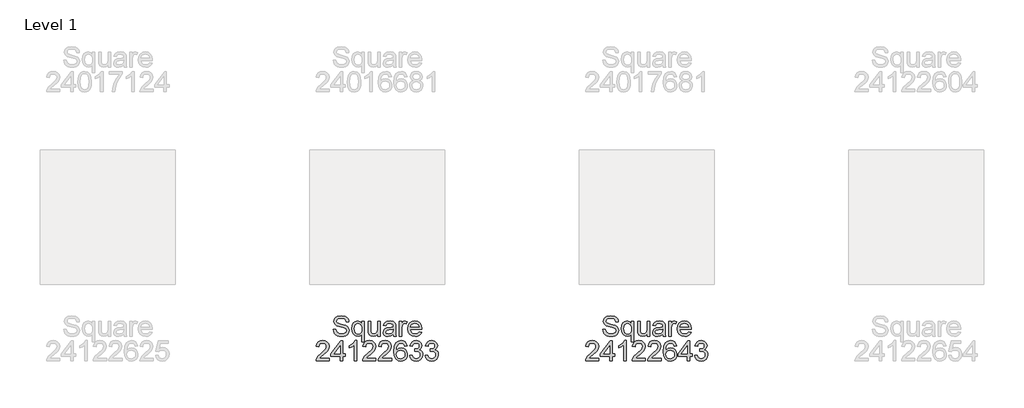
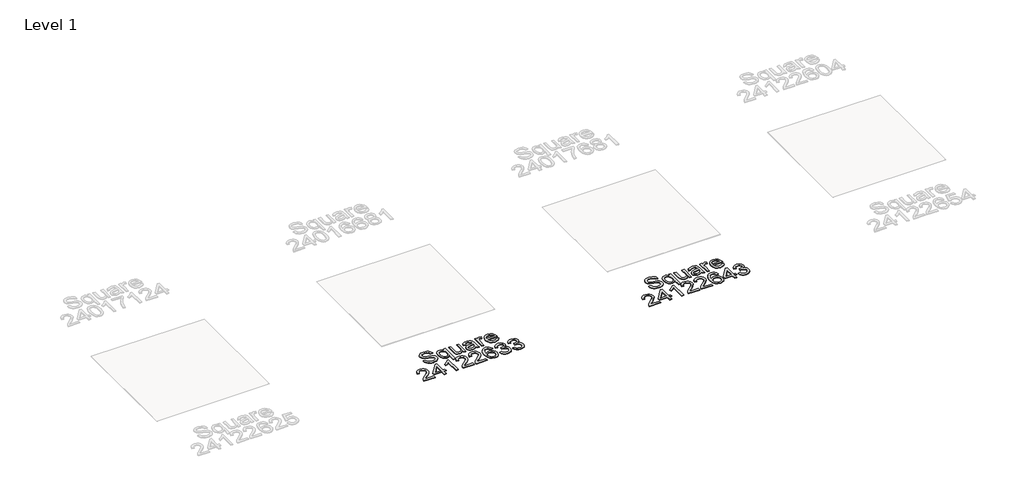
# One storey, part 2 of 6: 2 proxies.
"""IFC4 building model written with IfcOpenShell, lengths in millimetres."""

import ifcopenshell
import ifcopenshell.guid

model = None  # the IFC model being written
_history = None  # IfcOwnerHistory: only IFC2X3 demands one
_inside = {}  # id of a spatial element -> (the spatial element, [elements in it])
_under = {}  # id of a project, library or spatial element -> (it, [spatial elements below it])
_declared = {}  # id of a project -> (the project, [libraries it declares])
_typed = {}  # id of a type object -> (the type object, [elements of that type])
_made_of = {}  # id of a material, layer set ... -> (it, [elements and type objects made of it])


def new_model(schema):
    """Start an empty IFC model of exactly this schema.

    Asked for "IFC4X3", IfcOpenShell would pick the latest addendum, in which some entities
    have other attributes; the version numbers below select the first issue.
    IFC2X3 requires an IfcOwnerHistory on every rooted entity: one is made here for all.
    """
    global model, _history
    if schema == "IFC4X3":
        model = ifcopenshell.file(schema_version=(4, 3, 0, 0))
    else:
        model = ifcopenshell.file(schema=schema)
    _inside.clear()
    _under.clear()
    _declared.clear()
    _typed.clear()
    _made_of.clear()
    _history = None
    if model.schema == "IFC2X3":
        org = make("IfcOrganization", Name="unknown")
        user = make(
            "IfcPersonAndOrganization",
            ThePerson=make("IfcPerson", FamilyName="unknown"),
            TheOrganization=org,
        )
        app = make(
            "IfcApplication",
            ApplicationDeveloper=org,
            Version="unknown",
            ApplicationFullName="unknown",
            ApplicationIdentifier="unknown",
        )
        _history = make(
            "IfcOwnerHistory",
            OwningUser=user,
            OwningApplication=app,
            ChangeAction="ADDED",
            CreationDate=0,
        )
    return model


def make(cls, **values):
    """One entity of the class cls with the attributes given. An attribute that is None is left unset."""
    return model.create_entity(
        cls, **{name: value for name, value in values.items() if value is not None}
    )


def rooted(cls, **values):
    """An entity with a GlobalId (a new one), such as an element, a storey or a relation."""
    return make(cls, GlobalId=ifcopenshell.guid.new(), OwnerHistory=_history, **values)


def si_unit(unit_type, name, prefix=None):
    """IfcSIUnit, for example si_unit("LENGTHUNIT", "METRE", prefix="MILLI")."""
    return make("IfcSIUnit", UnitType=unit_type, Prefix=prefix, Name=name)


def assignment(units):
    """IfcUnitAssignment: the units of a project."""
    return None if units is None else make("IfcUnitAssignment", Units=units)


def point(xyz):
    """IfcCartesianPoint."""
    return None if xyz is None else make("IfcCartesianPoint", Coordinates=xyz)


def direction(xyz):
    """IfcDirection."""
    return None if xyz is None else make("IfcDirection", DirectionRatios=xyz)


def frame(location, z_axis=None, x_axis=None):
    """IfcAxis2Placement3D, a coordinate frame: its origin and axes. An axis left out is left unset."""
    return make(
        "IfcAxis2Placement3D",
        Location=point(location),
        Axis=direction(z_axis),
        RefDirection=direction(x_axis),
    )


def origin():
    """The frame at (0, 0, 0) with its axes left unset."""
    return frame((0.0, 0.0, 0.0))


def origin_with_axes():
    """The frame at (0, 0, 0) with the z axis (0, 0, 1) and the x axis (1, 0, 0) written out."""
    return frame((0.0, 0.0, 0.0), z_axis=(0.0, 0.0, 1.0), x_axis=(1.0, 0.0, 0.0))


def place(relative_to, where):
    """IfcLocalPlacement: puts the frame where relative to a parent placement (None: the world)."""
    return make(
        "IfcLocalPlacement", PlacementRelTo=relative_to, RelativePlacement=where
    )


def context(
    kind, dimensions, precision=None, world=None, true_north=None, identifier=None
):
    """IfcGeometricRepresentationContext, for example the 3D "Model" context."""
    return make(
        "IfcGeometricRepresentationContext",
        ContextIdentifier=identifier,
        ContextType=kind,
        CoordinateSpaceDimension=dimensions,
        Precision=precision,
        WorldCoordinateSystem=world,
        TrueNorth=true_north,
    )


def project(units=None, contexts=None):
    """IfcProject with its units and contexts."""
    return rooted(
        "IfcProject",
        Name="project",
        RepresentationContexts=contexts,
        UnitsInContext=assignment(units),
    )


def spatial(cls, under=None, at=None, **own):
    """A site, building, storey or space (cls), placed at a placement, below another one or the project."""
    s = rooted(cls, ObjectPlacement=at, **own)
    if under is not None:
        _under.setdefault(under.id(), (under, []))[1].append(s)
    return s


def polyline(points):
    """IfcPolyline through the points."""
    return make("IfcPolyline", Points=[point(p) for p in points])


def outline(outer, holes=None, kind="AREA"):
    """IfcArbitraryClosedProfileDef: a profile drawn as a closed curve; with holes, ...WithVoids."""
    if holes is None:
        return make("IfcArbitraryClosedProfileDef", ProfileType=kind, OuterCurve=outer)
    return make(
        "IfcArbitraryProfileDefWithVoids",
        ProfileType=kind,
        OuterCurve=outer,
        InnerCurves=holes,
    )


def extrude(swept, where, along, depth):
    """IfcExtrudedAreaSolid: the profile swept, set in the frame where, extruded along a direction by depth."""
    return make(
        "IfcExtrudedAreaSolid",
        SweptArea=swept,
        Position=where,
        ExtrudedDirection=direction(along),
        Depth=depth,
    )


def shape(context_of_items, identifier, shape_type, items):
    """IfcShapeRepresentation: the items that make up one representation, for example the "Body"."""
    return make(
        "IfcShapeRepresentation",
        ContextOfItems=context_of_items,
        RepresentationIdentifier=identifier,
        RepresentationType=shape_type,
        Items=items,
    )


def made_of(thing, what):
    """Note that an element or type object is made of a material, layer set ...; save() writes the relation."""
    if what is not None:
        _made_of.setdefault(what.id(), (what, []))[1].append(thing)
    return thing


def element(
    cls,
    number,
    at=None,
    inside=None,
    cuts=None,
    type_object=None,
    material=None,
    context=None,
    identifier="Body",
    shape_type=None,
    held_by="IfcProductDefinitionShape",
    body=None,
    shapes=None,
    **own,
):
    """One element of the class cls, such as IfcWall. Its Tag is "e" and its number.

    at: its placement. inside: the storey or other place that contains it. cuts: it is an
    opening in that element (IfcRelVoidsElement). A single representation is given by context,
    identifier, shape_type and body (its items); several are given by shapes. held_by: the class
    of the entity that holds the representations. save() writes the other relations.
    """
    e = rooted(cls, Tag="e%d" % number, ObjectPlacement=at, **own)
    if body is not None:
        shapes = [shape(context, identifier, shape_type, body)]
    if shapes is not None:
        e.Representation = make(held_by, Representations=shapes)
    if inside is not None:
        _inside.setdefault(inside.id(), (inside, []))[1].append(e)
    if cuts is not None:
        rooted(
            "IfcRelVoidsElement", RelatingBuildingElement=cuts, RelatedOpeningElement=e
        )
    if type_object is not None:
        _typed.setdefault(type_object.id(), (type_object, []))[1].append(e)
    return made_of(e, material)


def aggregate(whole, parts):
    """IfcRelAggregates: a whole, such as a stair, and the parts it consists of."""
    return rooted("IfcRelAggregates", RelatingObject=whole, RelatedObjects=parts)


def save(model, path):
    """Write the relations noted so far, then the file.

    IfcRelAggregates (storeys below a building ...), IfcRelContainedInSpatialStructure (elements
    in a storey), IfcRelDefinesByType, IfcRelAssociatesMaterial and IfcRelDeclares: one each for
    every whole, place, type object, material and project.
    """
    for whole, parts in _under.values():
        aggregate(whole, parts)
    for where, things in _inside.values():
        rooted(
            "IfcRelContainedInSpatialStructure",
            RelatedElements=things,
            RelatingStructure=where,
        )
    for kind, things in _typed.values():
        rooted("IfcRelDefinesByType", RelatedObjects=things, RelatingType=kind)
    for what, things in _made_of.values():
        rooted("IfcRelAssociatesMaterial", RelatedObjects=things, RelatingMaterial=what)
    for by, libraries in _declared.values():
        rooted("IfcRelDeclares", RelatingContext=by, RelatedDefinitions=libraries)
    model.write(path)


model = new_model("IFC4")

# Units and contexts
model_context = context("Model", 3, world=origin())
ifc_project = project(units=[si_unit("LENGTHUNIT", "METRE", prefix="MILLI")], contexts=[model_context])

# Site, building, storey
site = spatial("IfcSite", under=ifc_project)
building = spatial("IfcBuilding", under=site)
storey = spatial("IfcBuildingStorey", under=building, Name="Level 1", Elevation=0.0)

# Proxies
placement = place(None, origin())
element("IfcBuildingElementProxy", 1, Name="150mm Arial", ObjectType="150mm Arial", at=placement, inside=storey, context=model_context, shape_type="SweptSolid", body=[
    extrude(outline(polyline([(-2760.0314438, -3311.1477573), (-2741.1958857, -3311.1477573), (-2735.1258328, -3330.0017096), (-2720.3001884, -3341.9210862), (-2697.7122339, -3346.4644288), (-2678.0305471, -3343.0247322), (-2665.3202242, -3333.5701649), (-2661.1447635, -3320.9334184), (-2664.2717605, -3309.1795886), (-2677.0740539, -3300.6263322), (-2704.4996567, -3293.4342392), (-2734.0221868, -3284.1452189), (-2750.0434477, -3270.1289148), (-2755.3225543, -3251.4037213), (-2753.6900779, -3240.37186), (-2748.7926489, -3230.0849597), (-2740.7590258, -3221.3661564), (-2729.7179674, -3215.0385861), (-2701.795724, -3209.9066322), (-2671.9972824, -3215.2777094), (-2660.5745464, -3221.9087823), (-2652.1316547, -3231.059847), (-2646.7881687, -3242.1606862), (-2644.6636501, -3254.6410828), (-2663.4992083, -3254.6410828), (-2666.9572991, -3243.4022879), (-2674.1677862, -3235.2904899), (-2685.4341723, -3230.3792653), (-2701.05996, -3228.7421904), (-2717.0536297, -3230.3608712), (-2728.0257103, -3235.2169135), (-2734.3716747, -3242.3630213), (-2736.4869961, -3250.8518983), (-2734.987877, -3258.0899766), (-2730.4905196, -3263.9117091), (-2699.7355848, -3274.4331342), (-2666.4054761, -3283.8877015), (-2655.6679203, -3290.7211095), (-2648.1769232, -3299.1548043), (-2643.7761348, -3309.0968152), (-2642.3092054, -3320.4551718), (-2643.996864, -3332.0664473), (-2649.05984, -3342.987944), (-2657.2911996, -3352.387329), (-2668.4840093, -3359.4322692), (-2681.9438918, -3363.8330575), (-2696.9764699, -3365.299987), (-2715.4303504, -3363.7180944), (-2730.6192783, -3358.9724167), (-2742.7179974, -3351.0445597), (-2751.9012517, -3339.9161293), (-2757.7965607, -3326.3596778), (-2760.0314438, -3311.1477573)])), origin_with_axes(), (0.0, 0.0, 1.0), 5.0),
    extrude(outline(polyline([(-2548.1314146, -3405.3255481), (-2548.1314146, -3347.8623804), (-2560.0875795, -3360.3335801), (-2576.42154, -3365.299987), (-2594.3281962, -3361.3774452), (-2609.5677078, -3349.6098199), (-2619.9971624, -3331.0087865), (-2623.4736472, -3306.5860206), (-2617.9554173, -3276.7507908), (-2611.1955856, -3265.1441138), (-2601.9525505, -3256.7380102), (-2590.9620759, -3251.6336475), (-2578.9599258, -3249.9321933), (-2561.4487428, -3255.2112999), (-2548.1314146, -3271.0486198), (-2548.1314146, -3252.2866381), (-2529.2958565, -3252.2866381), (-2529.2958565, -3405.3255481), (-2548.1314146, -3405.3255481)]), holes=[polyline([(-2604.6380891, -3307.6160902), (-2602.5181691, -3324.6122383), (-2596.1584091, -3336.7523442), (-2586.837199, -3344.0364077), (-2575.8329289, -3346.4644288), (-2565.2885112, -3344.1559693), (-2556.316789, -3337.2305908), (-2550.1777582, -3325.5871256), (-2548.1314146, -3309.1244063), (-2550.2881228, -3291.5258514), (-2556.7582474, -3278.9029004), (-2566.1346398, -3271.3015387), (-2577.0101512, -3268.7677515), (-2587.6833276, -3271.1267948), (-2596.5998675, -3278.2039246), (-2602.6285337, -3290.2750526), (-2604.6380891, -3307.6160902)])]), origin_with_axes(), (0.0, 0.0, 1.0), 5.0),
    extrude(outline(polyline([(-2430.4091762, -3362.9455422), (-2430.4091762, -3343.9260431), (-2445.1612442, -3359.956501), (-2464.4014725, -3365.299987), (-2482.1149906, -3361.5475906), (-2494.3286728, -3352.1298116), (-2499.9388732, -3338.2606604), (-2501.0425192, -3320.7494774), (-2501.0425192, -3252.2866381), (-2482.2069611, -3252.2866381), (-2482.2069611, -3311.8835213), (-2481.0665269, -3331.0869614), (-2473.6169165, -3342.3625446), (-2459.5822184, -3346.4644288), (-2443.8552631, -3342.2705741), (-2433.4625967, -3330.8478382), (-2430.4091762, -3309.8601703), (-2430.4091762, -3252.2866381), (-2411.573618, -3252.2866381), (-2411.573618, -3362.9455422), (-2430.4091762, -3362.9455422)])), origin_with_axes(), (0.0, 0.0, 1.0), 5.0),
    extrude(outline(polyline([(-2315.0413825, -3348.8188736), (-2333.3067235, -3361.5843788), (-2353.485051, -3365.299987), (-2369.2258018, -3363.0651039), (-2380.8370773, -3356.3604545), (-2387.9969806, -3346.1793203), (-2390.3836151, -3333.5149826), (-2386.7783715, -3318.6157618), (-2377.3054102, -3307.8000312), (-2364.1168406, -3301.6196136), (-2347.8196682, -3298.7869223), (-2315.1517471, -3292.3121992), (-2315.0413825, -3288.1183444), (-2316.3381665, -3279.7122408), (-2320.2285186, -3274.212405), (-2328.9289278, -3270.1289148), (-2341.0506395, -3268.7677515), (-2360.1069269, -3272.3913891), (-2369.1936122, -3285.2488648), (-2388.0291703, -3282.8944201), (-2379.8805841, -3264.5003203), (-2363.4730471, -3253.7213779), (-2338.6226184, -3249.9321933), (-2315.7955406, -3253.2799195), (-2302.9012766, -3261.6860231), (-2297.1255293, -3274.4699224), (-2296.2058243, -3290.9510358), (-2296.2058243, -3314.3851189), (-2295.2493311, -3347.1082223), (-2291.4969348, -3362.9455422), (-2310.3324929, -3362.9455422), (-2315.0413825, -3348.8188736)]), holes=[polyline([(-2315.0413825, -3311.1477573), (-2345.4284353, -3316.9235046), (-2361.6336372, -3319.9769252), (-2368.972883, -3324.9433321), (-2371.5480569, -3332.1906074), (-2365.9378565, -3342.3809387), (-2349.4751372, -3346.4644288), (-2330.4188499, -3341.9578744), (-2318.1315912, -3331.0501732), (-2315.1517471, -3316.4820462), (-2315.0413825, -3311.1477573)])]), origin_with_axes(), (0.0, 0.0, 1.0), 5.0),
    extrude(outline(polyline([(-2270.3069319, -3362.9455422), (-2270.3069319, -3252.2866381), (-2253.8258185, -3252.2866381), (-2253.8258185, -3268.6573869), (-2242.127171, -3253.5742251), (-2230.3549472, -3249.9321933), (-2211.4458126, -3255.7447288), (-2217.7365947, -3272.6305124), (-2230.9803466, -3268.7677515), (-2241.6305303, -3272.4833596), (-2248.4179531, -3282.7840555), (-2251.4713737, -3304.7833988), (-2251.4713737, -3362.9455422), (-2270.3069319, -3362.9455422)])), origin_with_axes(), (0.0, 0.0, 1.0), 5.0),
    extrude(outline(polyline([(-2122.1976406, -3329.9833155), (-2103.7299644, -3332.3377602), (-2110.38403, -3346.2528967), (-2121.0020241, -3356.6547601), (-2135.3448234, -3363.1386803), (-2153.1733046, -3365.299987), (-2175.2738155, -3361.5705833), (-2192.2791607, -3350.3823721), (-2203.1224825, -3332.4619204), (-2206.7369231, -3308.5357951), (-2203.0856943, -3283.804928), (-2192.1320079, -3265.3096607), (-2175.3565889, -3253.7765602), (-2154.2401624, -3249.9321933), (-2133.7813249, -3253.7673631), (-2117.4335688, -3265.2728725), (-2106.7144071, -3283.7313516), (-2103.1413532, -3308.4254305), (-2103.2517178, -3313.5022021), (-2187.9013649, -3313.5022021), (-2184.6410108, -3327.6012795), (-2177.0672402, -3337.9663548), (-2166.1365464, -3344.3399103), (-2152.8054226, -3346.4644288), (-2134.3377464, -3342.5280915), (-2122.1976406, -3329.9833155)]), holes=[polyline([(-2187.9013649, -3294.6666439), (-2121.9769114, -3294.6666439), (-2124.5244942, -3284.715436), (-2129.5184923, -3277.5969193), (-2140.4997699, -3270.9750434), (-2154.3137388, -3268.7677515), (-2167.0102661, -3270.5289865), (-2177.5086986, -3275.8126917), (-2184.8065577, -3284.0486498), (-2187.9013649, -3294.6666439)])]), origin_with_axes(), (0.0, 0.0, 1.0), 5.0),
    extrude(outline(polyline([(-2789.4620034, -3527.0722108), (-2789.4620034, -3545.907769), (-2888.3486838, -3545.907769), (-2886.3253328, -3532.9215346), (-2874.8842027, -3512.9271481), (-2851.3029668, -3491.0933517), (-2818.7821985, -3459.7130175), (-2812.6845544, -3448.8972869), (-2810.6520064, -3438.3758618), (-2812.5695913, -3428.9442872), (-2818.322346, -3421.1038021), (-2827.1653094, -3415.820097), (-2838.3535206, -3414.0588619), (-2850.1027518, -3415.7787103), (-2859.2308238, -3420.9382552), (-2865.1215343, -3429.1328267), (-2867.1586808, -3439.9577544), (-2885.994239, -3437.6033096), (-2881.4279037, -3419.3839538), (-2871.5548707, -3406.0758226), (-2856.8901746, -3397.9364335), (-2837.9488504, -3395.2233038), (-2818.8695704, -3398.2399361), (-2804.2324656, -3407.2898332), (-2794.9204526, -3420.8094965), (-2791.8164482, -3437.2354276), (-2795.1641744, -3455.0960985), (-2806.2926047, -3473.5637746), (-2833.2767491, -3499.3706966), (-2854.9449986, -3517.4888849), (-2863.4430727, -3527.0722108), (-2789.4620034, -3527.0722108)])), origin_with_axes(), (0.0, 0.0, 1.0), 5.0),
    extrude(outline(polyline([(-2709.4108813, -3545.907769), (-2709.4108813, -3510.5910975), (-2777.6897796, -3510.5910975), (-2777.6897796, -3491.7555393), (-2704.7019918, -3397.5777485), (-2690.5753231, -3397.5777485), (-2690.5753231, -3491.7555393), (-2671.739765, -3491.7555393), (-2671.739765, -3510.5910975), (-2690.5753231, -3510.5910975), (-2690.5753231, -3545.907769), (-2709.4108813, -3545.907769)]), holes=[polyline([(-2709.4108813, -3491.7555393), (-2709.4108813, -3433.5566077), (-2754.5132139, -3491.7555393), (-2709.4108813, -3491.7555393)])]), origin_with_axes(), (0.0, 0.0, 1.0), 5.0),
    extrude(outline(polyline([(-2584.6253085, -3545.907769), (-2603.4608667, -3545.907769), (-2603.4608667, -3428.4798361), (-2621.3031435, -3441.1901591), (-2641.131983, -3450.6999086), (-2641.131983, -3432.8944201), (-2613.5224393, -3415.2728725), (-2596.7654144, -3395.2233038), (-2584.6253085, -3395.2233038), (-2584.6253085, -3545.907769)])), origin_with_axes(), (0.0, 0.0, 1.0), 5.0),
    extrude(outline(polyline([(-2443.3586224, -3527.0722108), (-2443.3586224, -3545.907769), (-2542.2453027, -3545.907769), (-2540.2219517, -3532.9215346), (-2528.7808217, -3512.9271481), (-2505.1995858, -3491.0933517), (-2472.6788174, -3459.7130175), (-2466.5811733, -3448.8972869), (-2464.5486253, -3438.3758618), (-2466.4662102, -3428.9442872), (-2472.2189649, -3421.1038021), (-2481.0619284, -3415.820097), (-2492.2501395, -3414.0588619), (-2503.9993708, -3415.7787103), (-2513.1274428, -3420.9382552), (-2519.0181532, -3429.1328267), (-2521.0552998, -3439.9577544), (-2539.8908579, -3437.6033096), (-2535.3245227, -3419.3839538), (-2525.4514896, -3406.0758226), (-2510.7867936, -3397.9364335), (-2491.8454694, -3395.2233038), (-2472.7661894, -3398.2399361), (-2458.1290845, -3407.2898332), (-2448.8170715, -3420.8094965), (-2445.7130672, -3437.2354276), (-2449.0607933, -3455.0960985), (-2460.1892237, -3473.5637746), (-2487.173368, -3499.3706966), (-2508.8416175, -3517.4888849), (-2517.3396916, -3527.0722108), (-2443.3586224, -3527.0722108)])), origin_with_axes(), (0.0, 0.0, 1.0), 5.0),
    extrude(outline(polyline([(-2327.9908287, -3527.0722108), (-2327.9908287, -3545.907769), (-2426.877509, -3545.907769), (-2424.854158, -3532.9215346), (-2413.413028, -3512.9271481), (-2389.8317921, -3491.0933517), (-2357.3110237, -3459.7130175), (-2351.2133796, -3448.8972869), (-2349.1808316, -3438.3758618), (-2351.0984165, -3428.9442872), (-2356.8511712, -3421.1038021), (-2365.6941347, -3415.820097), (-2376.8823459, -3414.0588619), (-2388.6315771, -3415.7787103), (-2397.7596491, -3420.9382552), (-2403.6503595, -3429.1328267), (-2405.6875061, -3439.9577544), (-2424.5230642, -3437.6033096), (-2419.956729, -3419.3839538), (-2410.0836959, -3406.0758226), (-2395.4189999, -3397.9364335), (-2376.4776757, -3395.2233038), (-2357.3983957, -3398.2399361), (-2342.7612908, -3407.2898332), (-2333.4492778, -3420.8094965), (-2330.3452735, -3437.2354276), (-2333.6929996, -3455.0960985), (-2344.82143, -3473.5637746), (-2371.8055743, -3499.3706966), (-2393.4738238, -3517.4888849), (-2401.9718979, -3527.0722108), (-2327.9908287, -3527.0722108)])), origin_with_axes(), (0.0, 0.0, 1.0), 5.0),
    extrude(outline(polyline([(-2212.623035, -3435.2488648), (-2231.4585932, -3437.6033096), (-2238.5955039, -3421.8947484), (-2247.1395632, -3416.0178336), (-2257.4678502, -3414.0588619), (-2274.4639984, -3418.6205987), (-2287.3214741, -3435.7455055), (-2291.2256218, -3449.7756051), (-2292.6741572, -3469.3147376), (-2276.0642851, -3454.2867581), (-2255.4812875, -3449.3755335), (-2238.0804691, -3452.7324567), (-2223.4755539, -3462.8032263), (-2213.5703312, -3478.1898907), (-2210.2685902, -3497.4944984), (-2211.8228917, -3510.9819721), (-2216.485796, -3523.4853614), (-2223.871027, -3534.0895599), (-2233.5923087, -3541.8794612), (-2245.2081827, -3546.6665256), (-2258.2771906, -3548.2622138), (-2279.646536, -3544.0315708), (-2296.6656768, -3531.339642), (-2307.7987057, -3508.9356285), (-2311.5097153, -3475.5687315), (-2307.389437, -3438.0539651), (-2295.0286019, -3412.4033929), (-2278.1520154, -3399.5183261), (-2256.2906278, -3395.2233038), (-2239.7635292, -3397.8812512), (-2226.5289744, -3405.8550934), (-2217.2583482, -3418.5194311), (-2212.623035, -3435.2488648)]), holes=[polyline([(-2292.6741572, -3497.2001928), (-2288.3147555, -3513.5157593), (-2276.7264727, -3525.3615596), (-2259.7487186, -3529.4266556), (-2247.3189057, -3527.3205312), (-2237.5470402, -3521.0021579), (-2231.2148713, -3511.0693441), (-2229.1041484, -3498.1198978), (-2231.1872802, -3485.6900849), (-2237.4366756, -3476.212525), (-2247.374088, -3470.21145), (-2260.5212708, -3468.2110916), (-2272.9326896, -3470.21145), (-2283.3115604, -3476.212525), (-2290.333508, -3485.4601587), (-2292.6741572, -3497.2001928)])]), origin_with_axes(), (0.0, 0.0, 1.0), 5.0),
    extrude(outline(polyline([(-2193.7874769, -3505.8822079), (-2174.9519187, -3503.5277632), (-2170.7350713, -3515.3643663), (-2164.5592523, -3523.3566027), (-2156.1209591, -3527.9091424), (-2145.1166889, -3529.4266556), (-2132.2040309, -3527.3389253), (-2122.2344288, -3521.0757343), (-2115.8608732, -3511.7315316), (-2113.7363547, -3500.4007662), (-2115.8424791, -3489.6448164), (-2122.1608524, -3480.9214145), (-2131.7257843, -3475.1410687), (-2143.5715845, -3473.2142868), (-2156.7785481, -3475.2744259), (-2154.6816208, -3456.4388678), (-2151.6649884, -3456.659597), (-2130.2910445, -3451.2517316), (-2123.1725279, -3444.3907324), (-2120.799689, -3434.6234655), (-2122.5195373, -3426.4886748), (-2127.6790823, -3419.8897915), (-2135.551757, -3415.5165943), (-2145.4109945, -3414.0588619), (-2155.2886261, -3415.5303899), (-2163.3636359, -3419.9449738), (-2169.2589448, -3427.3026138), (-2172.5974739, -3437.6033096), (-2191.4330321, -3435.2488648), (-2185.887211, -3418.3354901), (-2176.0187765, -3405.7079406), (-2162.5175073, -3397.844463), (-2146.0731821, -3395.2233038), (-2123.3564689, -3400.3920458), (-2107.4639667, -3414.5187144), (-2101.9641309, -3433.5198195), (-2107.1880552, -3450.8838496), (-2122.639099, -3463.3550493), (-2110.848481, -3468.1191211), (-2102.1112837, -3476.2309191), (-2096.7034183, -3487.2489849), (-2094.9007966, -3500.73186), (-2098.5060401, -3519.0891715), (-2109.3217708, -3534.4298507), (-2125.6465343, -3544.804123), (-2145.7788765, -3548.2622138), (-2163.9890353, -3545.3099608), (-2178.8146797, -3536.4532017), (-2189.1245726, -3522.9059472), (-2193.7874769, -3505.8822079)])), origin_with_axes(), (0.0, 0.0, 1.0), 5.0),
    extrude(outline(polyline([(-2078.4196832, -3505.8822079), (-2059.584125, -3503.5277632), (-2055.3672776, -3515.3643663), (-2049.1914587, -3523.3566027), (-2040.7531654, -3527.9091424), (-2029.7488952, -3529.4266556), (-2016.8362372, -3527.3389253), (-2006.8666351, -3521.0757343), (-2000.4930795, -3511.7315316), (-1998.368561, -3500.4007662), (-2000.4746854, -3489.6448164), (-2006.7930587, -3480.9214145), (-2016.3579906, -3475.1410687), (-2028.2037908, -3473.2142868), (-2041.4107545, -3475.2744259), (-2039.3138271, -3456.4388678), (-2036.2971947, -3456.659597), (-2014.9232508, -3451.2517316), (-2007.8047342, -3444.3907324), (-2005.4318953, -3434.6234655), (-2007.1517437, -3426.4886748), (-2012.3112886, -3419.8897915), (-2020.1839633, -3415.5165943), (-2030.0432008, -3414.0588619), (-2039.9208324, -3415.5303899), (-2047.9958422, -3419.9449738), (-2053.8911511, -3427.3026138), (-2057.2296802, -3437.6033096), (-2076.0652384, -3435.2488648), (-2070.5194173, -3418.3354901), (-2060.6509828, -3405.7079406), (-2047.1497136, -3397.844463), (-2030.7053884, -3395.2233038), (-2007.9886752, -3400.3920458), (-1992.096173, -3414.5187144), (-1986.5963372, -3433.5198195), (-1991.8202615, -3450.8838496), (-2007.2713053, -3463.3550493), (-1995.4806874, -3468.1191211), (-1986.74349, -3476.2309191), (-1981.3356246, -3487.2489849), (-1979.5330029, -3500.73186), (-1983.1382464, -3519.0891715), (-1993.9539771, -3534.4298507), (-2010.2787406, -3544.804123), (-2030.4110828, -3548.2622138), (-2048.6212416, -3545.3099608), (-2063.446886, -3536.4532017), (-2073.7567789, -3522.9059472), (-2078.4196832, -3505.8822079)])), origin_with_axes(), (0.0, 0.0, 1.0), 5.0),
])
element("IfcBuildingElementProxy", 2, Name="150mm Arial", ObjectType="150mm Arial", at=placement, inside=storey, context=model_context, shape_type="SweptSolid", body=[
    extrude(outline(polyline([(-760.0314438, -3311.1477573), (-741.1958857, -3311.1477573), (-735.1258328, -3330.0017096), (-720.3001884, -3341.9210862), (-697.7122339, -3346.4644288), (-678.0305471, -3343.0247322), (-665.3202242, -3333.5701649), (-661.1447635, -3320.9334184), (-664.2717605, -3309.1795886), (-677.0740539, -3300.6263322), (-704.4996567, -3293.4342392), (-734.0221868, -3284.1452189), (-750.0434477, -3270.1289148), (-755.3225543, -3251.4037213), (-753.6900779, -3240.37186), (-748.7926489, -3230.0849597), (-740.7590258, -3221.3661564), (-729.7179674, -3215.0385861), (-701.795724, -3209.9066322), (-671.9972824, -3215.2777094), (-660.5745464, -3221.9087823), (-652.1316547, -3231.059847), (-646.7881687, -3242.1606862), (-644.6636501, -3254.6410828), (-663.4992083, -3254.6410828), (-666.9572991, -3243.4022879), (-674.1677862, -3235.2904899), (-685.4341723, -3230.3792653), (-701.05996, -3228.7421904), (-717.0536297, -3230.3608712), (-728.0257103, -3235.2169135), (-734.3716747, -3242.3630213), (-736.4869961, -3250.8518983), (-734.987877, -3258.0899766), (-730.4905196, -3263.9117091), (-699.7355848, -3274.4331342), (-666.4054761, -3283.8877015), (-655.6679203, -3290.7211095), (-648.1769232, -3299.1548043), (-643.7761348, -3309.0968152), (-642.3092054, -3320.4551718), (-643.996864, -3332.0664473), (-649.05984, -3342.987944), (-657.2911996, -3352.387329), (-668.4840093, -3359.4322692), (-681.9438918, -3363.8330575), (-696.9764699, -3365.299987), (-715.4303504, -3363.7180944), (-730.6192783, -3358.9724167), (-742.7179974, -3351.0445597), (-751.9012517, -3339.9161293), (-757.7965607, -3326.3596778), (-760.0314438, -3311.1477573)])), origin_with_axes(), (0.0, 0.0, 1.0), 5.0),
    extrude(outline(polyline([(-548.1314146, -3405.3255481), (-548.1314146, -3347.8623804), (-560.0875795, -3360.3335801), (-576.42154, -3365.299987), (-594.3281962, -3361.3774452), (-609.5677078, -3349.6098199), (-619.9971624, -3331.0087865), (-623.4736472, -3306.5860206), (-617.9554173, -3276.7507908), (-611.1955856, -3265.1441138), (-601.9525505, -3256.7380102), (-590.9620759, -3251.6336475), (-578.9599258, -3249.9321933), (-561.4487428, -3255.2112999), (-548.1314146, -3271.0486198), (-548.1314146, -3252.2866381), (-529.2958565, -3252.2866381), (-529.2958565, -3405.3255481), (-548.1314146, -3405.3255481)]), holes=[polyline([(-604.6380891, -3307.6160902), (-602.5181691, -3324.6122383), (-596.1584091, -3336.7523442), (-586.837199, -3344.0364077), (-575.8329289, -3346.4644288), (-565.2885112, -3344.1559693), (-556.316789, -3337.2305908), (-550.1777582, -3325.5871256), (-548.1314146, -3309.1244063), (-550.2881228, -3291.5258514), (-556.7582474, -3278.9029004), (-566.1346398, -3271.3015387), (-577.0101512, -3268.7677515), (-587.6833276, -3271.1267948), (-596.5998675, -3278.2039246), (-602.6285337, -3290.2750526), (-604.6380891, -3307.6160902)])]), origin_with_axes(), (0.0, 0.0, 1.0), 5.0),
    extrude(outline(polyline([(-430.4091762, -3362.9455422), (-430.4091762, -3343.9260431), (-445.1612442, -3359.956501), (-464.4014725, -3365.299987), (-482.1149906, -3361.5475906), (-494.3286728, -3352.1298116), (-499.9388732, -3338.2606604), (-501.0425192, -3320.7494774), (-501.0425192, -3252.2866381), (-482.2069611, -3252.2866381), (-482.2069611, -3311.8835213), (-481.0665269, -3331.0869614), (-473.6169165, -3342.3625446), (-459.5822184, -3346.4644288), (-443.8552631, -3342.2705741), (-433.4625967, -3330.8478382), (-430.4091762, -3309.8601703), (-430.4091762, -3252.2866381), (-411.573618, -3252.2866381), (-411.573618, -3362.9455422), (-430.4091762, -3362.9455422)])), origin_with_axes(), (0.0, 0.0, 1.0), 5.0),
    extrude(outline(polyline([(-315.0413825, -3348.8188736), (-333.3067235, -3361.5843788), (-353.485051, -3365.299987), (-369.2258018, -3363.0651039), (-380.8370773, -3356.3604545), (-387.9969806, -3346.1793203), (-390.3836151, -3333.5149826), (-386.7783715, -3318.6157618), (-377.3054102, -3307.8000312), (-364.1168406, -3301.6196136), (-347.8196682, -3298.7869223), (-315.1517471, -3292.3121992), (-315.0413825, -3288.1183444), (-316.3381665, -3279.7122408), (-320.2285186, -3274.212405), (-328.9289278, -3270.1289148), (-341.0506395, -3268.7677515), (-360.1069269, -3272.3913891), (-369.1936122, -3285.2488648), (-388.0291703, -3282.8944201), (-379.8805841, -3264.5003203), (-363.4730471, -3253.7213779), (-338.6226184, -3249.9321933), (-315.7955406, -3253.2799195), (-302.9012766, -3261.6860231), (-297.1255293, -3274.4699224), (-296.2058243, -3290.9510358), (-296.2058243, -3314.3851189), (-295.2493311, -3347.1082223), (-291.4969348, -3362.9455422), (-310.3324929, -3362.9455422), (-315.0413825, -3348.8188736)]), holes=[polyline([(-315.0413825, -3311.1477573), (-345.4284353, -3316.9235046), (-361.6336372, -3319.9769252), (-368.972883, -3324.9433321), (-371.5480569, -3332.1906074), (-365.9378565, -3342.3809387), (-349.4751372, -3346.4644288), (-330.4188499, -3341.9578744), (-318.1315912, -3331.0501732), (-315.1517471, -3316.4820462), (-315.0413825, -3311.1477573)])]), origin_with_axes(), (0.0, 0.0, 1.0), 5.0),
    extrude(outline(polyline([(-270.3069319, -3362.9455422), (-270.3069319, -3252.2866381), (-253.8258185, -3252.2866381), (-253.8258185, -3268.6573869), (-242.127171, -3253.5742251), (-230.3549472, -3249.9321933), (-211.4458126, -3255.7447288), (-217.7365947, -3272.6305124), (-230.9803466, -3268.7677515), (-241.6305303, -3272.4833596), (-248.4179531, -3282.7840555), (-251.4713737, -3304.7833988), (-251.4713737, -3362.9455422), (-270.3069319, -3362.9455422)])), origin_with_axes(), (0.0, 0.0, 1.0), 5.0),
    extrude(outline(polyline([(-122.1976406, -3329.9833155), (-103.7299644, -3332.3377602), (-110.38403, -3346.2528967), (-121.0020241, -3356.6547601), (-135.3448234, -3363.1386803), (-153.1733046, -3365.299987), (-175.2738155, -3361.5705833), (-192.2791607, -3350.3823721), (-203.1224825, -3332.4619204), (-206.7369231, -3308.5357951), (-203.0856943, -3283.804928), (-192.1320079, -3265.3096607), (-175.3565889, -3253.7765602), (-154.2401624, -3249.9321933), (-133.7813249, -3253.7673631), (-117.4335688, -3265.2728725), (-106.7144071, -3283.7313516), (-103.1413532, -3308.4254305), (-103.2517178, -3313.5022021), (-187.9013649, -3313.5022021), (-184.6410108, -3327.6012795), (-177.0672402, -3337.9663548), (-166.1365464, -3344.3399103), (-152.8054226, -3346.4644288), (-134.3377464, -3342.5280915), (-122.1976406, -3329.9833155)]), holes=[polyline([(-187.9013649, -3294.6666439), (-121.9769114, -3294.6666439), (-124.5244942, -3284.715436), (-129.5184923, -3277.5969193), (-140.4997699, -3270.9750434), (-154.3137388, -3268.7677515), (-167.0102661, -3270.5289865), (-177.5086986, -3275.8126917), (-184.8065577, -3284.0486498), (-187.9013649, -3294.6666439)])]), origin_with_axes(), (0.0, 0.0, 1.0), 5.0),
    extrude(outline(polyline([(-789.4620034, -3527.0722108), (-789.4620034, -3545.907769), (-888.3486838, -3545.907769), (-886.3253328, -3532.9215346), (-874.8842027, -3512.9271481), (-851.3029668, -3491.0933517), (-818.7821985, -3459.7130175), (-812.6845544, -3448.8972869), (-810.6520064, -3438.3758618), (-812.5695913, -3428.9442872), (-818.322346, -3421.1038021), (-827.1653094, -3415.820097), (-838.3535206, -3414.0588619), (-850.1027518, -3415.7787103), (-859.2308238, -3420.9382552), (-865.1215343, -3429.1328267), (-867.1586808, -3439.9577544), (-885.994239, -3437.6033096), (-881.4279037, -3419.3839538), (-871.5548707, -3406.0758226), (-856.8901746, -3397.9364335), (-837.9488504, -3395.2233038), (-818.8695704, -3398.2399361), (-804.2324656, -3407.2898332), (-794.9204526, -3420.8094965), (-791.8164482, -3437.2354276), (-795.1641744, -3455.0960985), (-806.2926047, -3473.5637746), (-833.2767491, -3499.3706966), (-854.9449986, -3517.4888849), (-863.4430727, -3527.0722108), (-789.4620034, -3527.0722108)])), origin_with_axes(), (0.0, 0.0, 1.0), 5.0),
    extrude(outline(polyline([(-709.4108813, -3545.907769), (-709.4108813, -3510.5910975), (-777.6897796, -3510.5910975), (-777.6897796, -3491.7555393), (-704.7019918, -3397.5777485), (-690.5753231, -3397.5777485), (-690.5753231, -3491.7555393), (-671.739765, -3491.7555393), (-671.739765, -3510.5910975), (-690.5753231, -3510.5910975), (-690.5753231, -3545.907769), (-709.4108813, -3545.907769)]), holes=[polyline([(-709.4108813, -3491.7555393), (-709.4108813, -3433.5566077), (-754.5132139, -3491.7555393), (-709.4108813, -3491.7555393)])]), origin_with_axes(), (0.0, 0.0, 1.0), 5.0),
    extrude(outline(polyline([(-584.6253085, -3545.907769), (-603.4608667, -3545.907769), (-603.4608667, -3428.4798361), (-621.3031435, -3441.1901591), (-641.131983, -3450.6999086), (-641.131983, -3432.8944201), (-613.5224393, -3415.2728725), (-596.7654144, -3395.2233038), (-584.6253085, -3395.2233038), (-584.6253085, -3545.907769)])), origin_with_axes(), (0.0, 0.0, 1.0), 5.0),
    extrude(outline(polyline([(-443.3586224, -3527.0722108), (-443.3586224, -3545.907769), (-542.2453027, -3545.907769), (-540.2219517, -3532.9215346), (-528.7808217, -3512.9271481), (-505.1995858, -3491.0933517), (-472.6788174, -3459.7130175), (-466.5811733, -3448.8972869), (-464.5486253, -3438.3758618), (-466.4662102, -3428.9442872), (-472.2189649, -3421.1038021), (-481.0619284, -3415.820097), (-492.2501395, -3414.0588619), (-503.9993708, -3415.7787103), (-513.1274428, -3420.9382552), (-519.0181532, -3429.1328267), (-521.0552998, -3439.9577544), (-539.8908579, -3437.6033096), (-535.3245227, -3419.3839538), (-525.4514896, -3406.0758226), (-510.7867936, -3397.9364335), (-491.8454694, -3395.2233038), (-472.7661894, -3398.2399361), (-458.1290845, -3407.2898332), (-448.8170715, -3420.8094965), (-445.7130672, -3437.2354276), (-449.0607933, -3455.0960985), (-460.1892237, -3473.5637746), (-487.173368, -3499.3706966), (-508.8416175, -3517.4888849), (-517.3396916, -3527.0722108), (-443.3586224, -3527.0722108)])), origin_with_axes(), (0.0, 0.0, 1.0), 5.0),
    extrude(outline(polyline([(-327.9908287, -3527.0722108), (-327.9908287, -3545.907769), (-426.877509, -3545.907769), (-424.854158, -3532.9215346), (-413.413028, -3512.9271481), (-389.8317921, -3491.0933517), (-357.3110237, -3459.7130175), (-351.2133796, -3448.8972869), (-349.1808316, -3438.3758618), (-351.0984165, -3428.9442872), (-356.8511712, -3421.1038021), (-365.6941347, -3415.820097), (-376.8823459, -3414.0588619), (-388.6315771, -3415.7787103), (-397.7596491, -3420.9382552), (-403.6503595, -3429.1328267), (-405.6875061, -3439.9577544), (-424.5230642, -3437.6033096), (-419.956729, -3419.3839538), (-410.0836959, -3406.0758226), (-395.4189999, -3397.9364335), (-376.4776757, -3395.2233038), (-357.3983957, -3398.2399361), (-342.7612908, -3407.2898332), (-333.4492778, -3420.8094965), (-330.3452735, -3437.2354276), (-333.6929996, -3455.0960985), (-344.82143, -3473.5637746), (-371.8055743, -3499.3706966), (-393.4738238, -3517.4888849), (-401.9718979, -3527.0722108), (-327.9908287, -3527.0722108)])), origin_with_axes(), (0.0, 0.0, 1.0), 5.0),
    extrude(outline(polyline([(-212.623035, -3435.2488648), (-231.4585932, -3437.6033096), (-238.5955039, -3421.8947484), (-247.1395632, -3416.0178336), (-257.4678502, -3414.0588619), (-274.4639984, -3418.6205987), (-287.3214741, -3435.7455055), (-291.2256218, -3449.7756051), (-292.6741572, -3469.3147376), (-276.0642851, -3454.2867581), (-255.4812875, -3449.3755335), (-238.0804691, -3452.7324567), (-223.4755539, -3462.8032263), (-213.5703312, -3478.1898907), (-210.2685902, -3497.4944984), (-211.8228917, -3510.9819721), (-216.485796, -3523.4853614), (-223.871027, -3534.0895599), (-233.5923087, -3541.8794612), (-245.2081827, -3546.6665256), (-258.2771906, -3548.2622138), (-279.646536, -3544.0315708), (-296.6656768, -3531.339642), (-307.7987057, -3508.9356285), (-311.5097153, -3475.5687315), (-307.389437, -3438.0539651), (-295.0286019, -3412.4033929), (-278.1520154, -3399.5183261), (-256.2906278, -3395.2233038), (-239.7635292, -3397.8812512), (-226.5289744, -3405.8550934), (-217.2583482, -3418.5194311), (-212.623035, -3435.2488648)]), holes=[polyline([(-292.6741572, -3497.2001928), (-288.3147555, -3513.5157593), (-276.7264727, -3525.3615596), (-259.7487186, -3529.4266556), (-247.3189057, -3527.3205312), (-237.5470402, -3521.0021579), (-231.2148713, -3511.0693441), (-229.1041484, -3498.1198978), (-231.1872802, -3485.6900849), (-237.4366756, -3476.212525), (-247.374088, -3470.21145), (-260.5212708, -3468.2110916), (-272.9326896, -3470.21145), (-283.3115604, -3476.212525), (-290.333508, -3485.4601587), (-292.6741572, -3497.2001928)])]), origin_with_axes(), (0.0, 0.0, 1.0), 5.0),
    extrude(outline(polyline([(-132.5719129, -3545.907769), (-132.5719129, -3510.5910975), (-200.8508112, -3510.5910975), (-200.8508112, -3491.7555393), (-127.8630233, -3397.5777485), (-113.7363547, -3397.5777485), (-113.7363547, -3491.7555393), (-94.9007966, -3491.7555393), (-94.9007966, -3510.5910975), (-113.7363547, -3510.5910975), (-113.7363547, -3545.907769), (-132.5719129, -3545.907769)]), holes=[polyline([(-132.5719129, -3491.7555393), (-132.5719129, -3433.5566077), (-177.6742455, -3491.7555393), (-132.5719129, -3491.7555393)])]), origin_with_axes(), (0.0, 0.0, 1.0), 5.0),
    extrude(outline(polyline([(-78.4196832, -3505.8822079), (-59.584125, -3503.5277632), (-55.3672776, -3515.3643663), (-49.1914587, -3523.3566027), (-40.7531654, -3527.9091424), (-29.7488952, -3529.4266556), (-16.8362372, -3527.3389253), (-6.8666351, -3521.0757343), (-0.4930795, -3511.7315316), (1.631439, -3500.4007662), (-0.4746854, -3489.6448164), (-6.7930587, -3480.9214145), (-16.3579906, -3475.1410687), (-28.2037908, -3473.2142868), (-41.4107545, -3475.2744259), (-39.3138271, -3456.4388678), (-36.2971947, -3456.659597), (-14.9232508, -3451.2517316), (-7.8047342, -3444.3907324), (-5.4318953, -3434.6234655), (-7.1517437, -3426.4886748), (-12.3112886, -3419.8897915), (-20.1839633, -3415.5165943), (-30.0432008, -3414.0588619), (-39.9208324, -3415.5303899), (-47.9958422, -3419.9449738), (-53.8911511, -3427.3026138), (-57.2296802, -3437.6033096), (-76.0652384, -3435.2488648), (-70.5194173, -3418.3354901), (-60.6509828, -3405.7079406), (-47.1497136, -3397.844463), (-30.7053884, -3395.2233038), (-7.9886752, -3400.3920458), (7.903827, -3414.5187144), (13.4036628, -3433.5198195), (8.1797385, -3450.8838496), (-7.2713053, -3463.3550493), (4.5193126, -3468.1191211), (13.25651, -3476.2309191), (18.6643754, -3487.2489849), (20.4669971, -3500.73186), (16.8617536, -3519.0891715), (6.0460229, -3534.4298507), (-10.2787406, -3544.804123), (-30.4110828, -3548.2622138), (-48.6212416, -3545.3099608), (-63.446886, -3536.4532017), (-73.7567789, -3522.9059472), (-78.4196832, -3505.8822079)])), origin_with_axes(), (0.0, 0.0, 1.0), 5.0),
])

save(model, "model.ifc")
